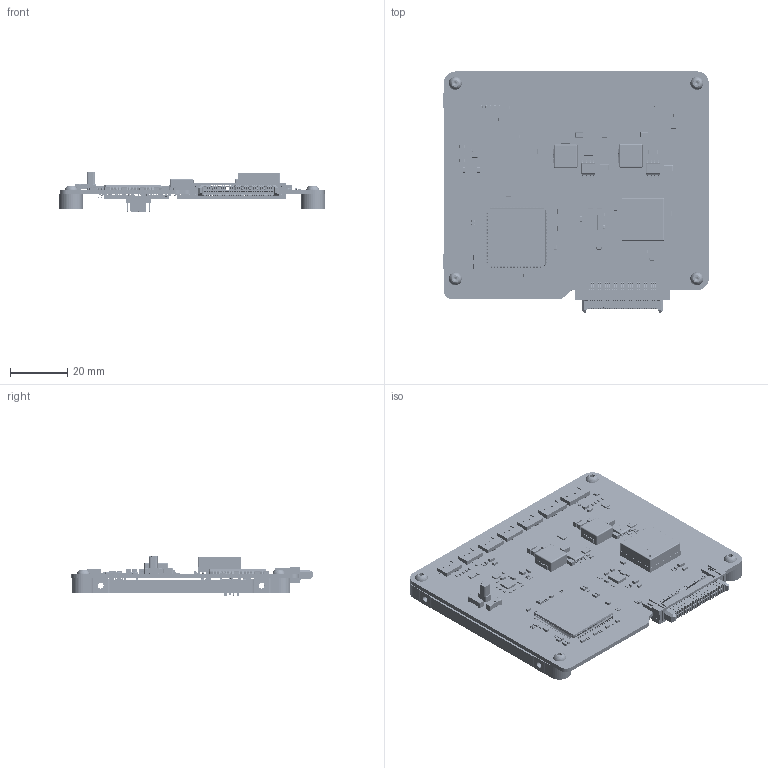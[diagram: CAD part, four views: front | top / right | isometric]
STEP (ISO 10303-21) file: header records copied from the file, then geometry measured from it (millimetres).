
FILE_DESCRIPTION(/* description */ ('STEP AP242 Edition 2','CAx-IF Rec.Pracs.---Representation and Presentation of Product Manufacturing Information (PMI)---4.0---2014-10-13','CAx-IF Rec.Pracs.---3D Tessellated Geometry---0.4---2014-09-14','2;1','CAx-IF Rec.Pracs.---User Defined Attributes---1.5---2016-08-15'),/* implementation_level */ '2;1');
FILE_NAME(/* name */ '6afad623e7bef446e1c521e3',/* time_stamp */ '2026-11-16T10:09:12Z',/* author */ (''),/* organization */ (''),/* preprocessor_version */ 'ST-DEVELOPER v20',/* originating_system */ 'ONSHAPE BY PTC INC, 1.223',/* authorisation */ ' ');
FILE_SCHEMA (('AP242_MANAGED_MODEL_BASED_3D_ENGINEERING_MIM_LF { 1 0 10303 442 3 1 4 }'));
Products named in the file (1313): ADCS board; Pins_6; Open CASCADE STEP translator 7.5 1.91.1.2.1; cover_3; Open CASCADE STEP translator 7.5 24.1.2_7; name; Open CASCADE STEP translator 7.5 4.2.1_6; Pins_5; contact_12; Mark; Open CASCADE STEP translator 6.8 19.2.1_17; side_10; Pins_1; Open CASCADE STEP translator 6.8 19.1.1_5; BOSCH logo; PNI-Sen-Z; 2; TP_8; Pins_4; side_7; Open CASCADE STEP translator 6.8 19.1.1_1; Open CASCADE STEP translator 7.5 15.4.1_26; Mark_2; Open CASCADE STEP translator 7.5 4.2.1_10; Pins_7; Open CASCADE STEP translator 6.8 19.1.1_6; Mid Body_1; Open CASCADE STEP translator 6.8 19.1.2_1; Analog; side; Open CASCADE STEP translator 7.5 24.1.1_6; Open CASCADE STEP translator 7.5 24.1.1_5; Mid Body_2; Balls; Open CASCADE STEP translator 6.8 19.1.2_15; cover_6; Vishay logo - Copy; 1; Open CASCADE STEP translator 7.5 15.4.1_6; logo_6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
Assembly tree (1316 placements, depth 2):
  ADCS board
    Pins_6
    Open CASCADE STEP translator 7.5 1.91.1.2.1
    cover_3
    Open CASCADE STEP translator 7.5 24.1.2_7
    name
    Open CASCADE STEP translator 7.5 4.2.1_6
    Pins_5
    contact_12
    Mark
    Open CASCADE STEP translator 7.5 1.91.1.2.1
    Open CASCADE STEP translator 6.8 19.2.1_17
    side_10
    Pins_1
    Open CASCADE STEP translator 6.8 19.1.1_5
    BOSCH logo
    PNI-Sen-Z
    2
    TP_8
    Pins_4
    side_7
    Open CASCADE STEP translator 6.8 19.1.1_1
    Open CASCADE STEP translator 7.5 15.4.1_26
    Mark_2
    Open CASCADE STEP translator 7.5 4.2.1_10
    Pins_7
    Open CASCADE STEP translator 6.8 19.1.1_6
    Mid Body_1
    Open CASCADE STEP translator 6.8 19.1.2_1
    Analog
    side
    Open CASCADE STEP translator 7.5 24.1.1_6
    Open CASCADE STEP translator 7.5 24.1.1_5
    Pins_1
    Mid Body_2
    Balls
    Open CASCADE STEP translator 6.8 19.1.2_15
    cover_6
    Vishay logo - Copy
    BOSCH logo
    1
    Open CASCADE STEP translator 7.5 15.4.1_6
    logo_6
    Pins_5
    logo
    body_3
    Analog
    logo_5
    1
    body
    Open CASCADE STEP translator 7.5 4.2.1_6
    TI_Logo_1mm_5
    Vishay logo
    mtn_MIR_6
    Open CASCADE STEP translator 7.5 4.2.1_5
    contact_26
    1
    Extruded_2
    base_19
    Open CASCADE STEP translator 7.5 24.1.1_2
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Bounding box: 92.31 x 83.87 x 14.03 mm (x, y, z)
Volume: 18823.9 mm3; surface area: 32764.7 mm2
Topology: 1316 solids, 1316 shells, 30199 faces, 79219 edges, 51144 vertices
Faces by surface type: plane 19428, cylinder 8417, sphere 1111, bspline 877, cone 205, torus 161
Full cylindrical faces by diameter (mm): 0.043 x1, 0.078 x2, 0.155 x1, 0.173 x4, 0.2 x16, 0.214 x2, 0.279 x1, 0.319 x1, 0.5 x5, 0.55 x100, 0.6 x11, 0.7 x6, 0.75 x100, 0.889 x2, 1 x1, 1.02 x2, 1.194 x2, 2.05 x8, 2.5 x4, 2.7 x4
Entity records: 953218 total; most frequent: CARTESIAN_POINT 190725, ORIENTED_EDGE 154340, DIRECTION 144699, EDGE_CURVE 77170, LINE 54931, VECTOR 54931, VERTEX_POINT 50606, AXIS2_PLACEMENT_3D 44884
